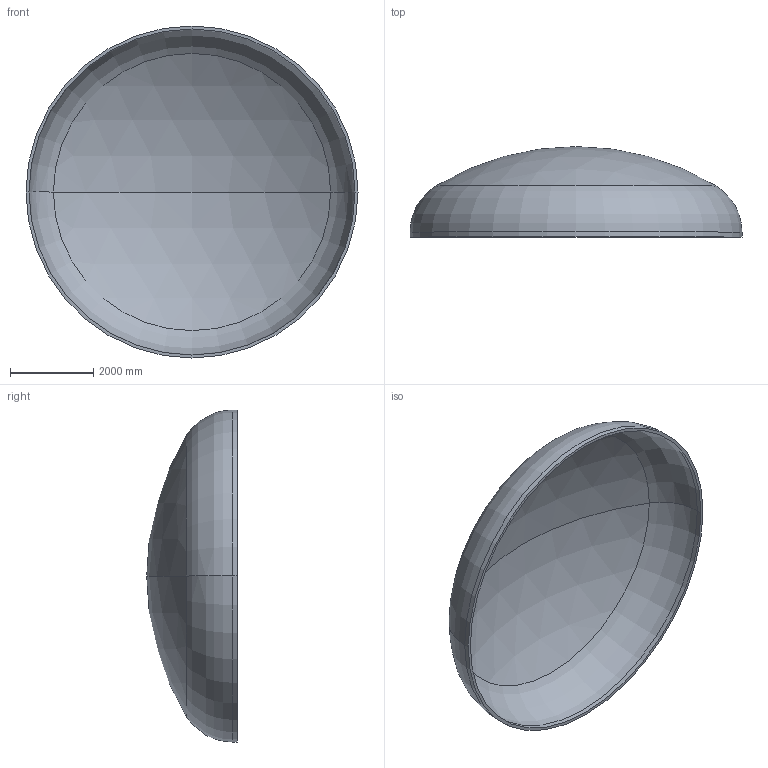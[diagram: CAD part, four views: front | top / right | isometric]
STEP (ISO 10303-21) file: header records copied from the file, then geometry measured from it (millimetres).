
FILE_DESCRIPTION (( 'STEP AP203' ), '1' );
FILE_NAME ('DIN 28013 Korbbogenform_-_Boden DIN 28013 - 8000 x 120 - I - s=72.step', '2016-07-04T11:03:34', ( '' ), ( '' ), 'SwSTEP 2.0', 'SolidWorks 2013', '' );
FILE_SCHEMA (( 'CONFIG_CONTROL_DESIGN' ));
Length unit declared in the file: millimetre
Products named in the file (1): DIN 28013 Korbbogenform_-_Boden DIN 28013 - 8000 x 120 - I - s=72
Bounding box: 8000 x 2181.82 x 8000 mm (x, y, z)
Volume: 5166745819 mm3; surface area: 145324790 mm2
Topology: 1 solids, 1 shells, 13 faces, 24 edges, 14 vertices
Faces by surface type: torus 4, cylinder 4, sphere 4, plane 1
Entity records: 407 total; most frequent: DIRECTION 72, CARTESIAN_POINT 52, ORIENTED_EDGE 48, AXIS2_PLACEMENT_3D 34, EDGE_CURVE 24, CIRCLE 20, VERTEX_POINT 14, EDGE_LOOP 14
